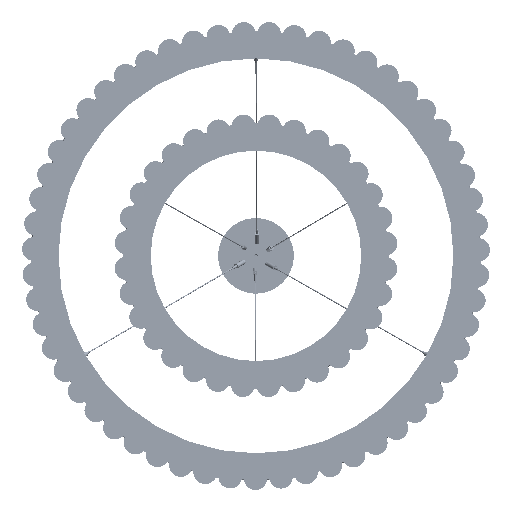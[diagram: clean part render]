
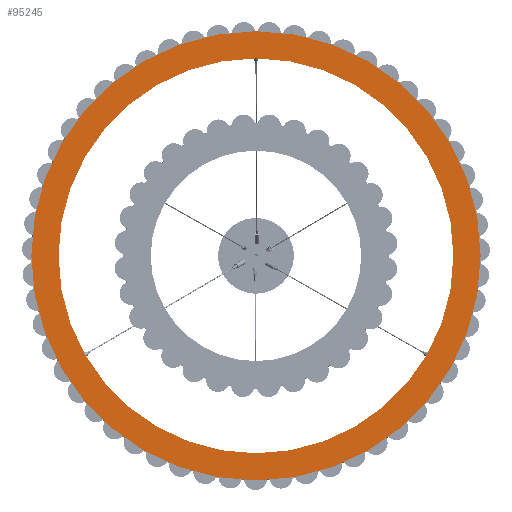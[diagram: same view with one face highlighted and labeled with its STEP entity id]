
A CAD part, front view. The second image highlights one B-rep face of the part: STEP entity #95245.
In plain terms, the highlighted planar face has unit normal (0, -1, 0).
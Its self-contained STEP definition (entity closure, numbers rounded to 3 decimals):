
#2103 = EDGE_LOOP ( 'NONE', ( #89075, #6935 ) ) ;
#6189 = DIRECTION ( 'NONE',  ( 0., 1., 0. ) ) ;
#6935 = ORIENTED_EDGE ( 'NONE', *, *, #30775, .F. ) ;
#8304 = DIRECTION ( 'NONE',  ( 0., 1., 0. ) ) ;
#9660 = EDGE_LOOP ( 'NONE', ( #27070, #81032 ) ) ;
#17504 = VERTEX_POINT ( 'NONE', #86953 ) ;
#19259 = AXIS2_PLACEMENT_3D ( 'NONE', #70881, #32173, #24553 ) ;
#20488 = CARTESIAN_POINT ( 'NONE',  ( 0., 0., -475. ) ) ;
#24089 = CARTESIAN_POINT ( 'NONE',  ( 0., 0., 0. ) ) ;
#24553 = DIRECTION ( 'NONE',  ( 0., 0., 1. ) ) ;
#25751 = VERTEX_POINT ( 'NONE', #76959 ) ;
#27070 = ORIENTED_EDGE ( 'NONE', *, *, #84040, .T. ) ;
#27551 = VERTEX_POINT ( 'NONE', #89168 ) ;
#30775 = EDGE_CURVE ( 'NONE', #27551, #93821, #99380, .T. ) ;
#30830 = AXIS2_PLACEMENT_3D ( 'NONE', #69986, #38404, #69492 ) ;
#32173 = DIRECTION ( 'NONE',  ( 0., 1., 0. ) ) ;
#32282 = FACE_OUTER_BOUND ( 'NONE', #2103, .T. ) ;
#34576 = DIRECTION ( 'NONE',  ( 0., 0., 1. ) ) ;
#34906 = CIRCLE ( 'NONE', #82139, 417.5 ) ;
#36592 = CIRCLE ( 'NONE', #38206, 417.5 ) ;
#38206 = AXIS2_PLACEMENT_3D ( 'NONE', #83128, #6189, #44878 ) ;
#38404 = DIRECTION ( 'NONE',  ( 0., 1., 0. ) ) ;
#38461 = EDGE_CURVE ( 'NONE', #93821, #27551, #48493, .T. ) ;
#39864 = DIRECTION ( 'NONE',  ( 0., 0., 1. ) ) ;
#42737 = CARTESIAN_POINT ( 'NONE',  ( 0., 0., 0. ) ) ;
#44878 = DIRECTION ( 'NONE',  ( 0., 0., 1. ) ) ;
#48493 = CIRCLE ( 'NONE', #19259, 475. ) ;
#69492 = DIRECTION ( 'NONE',  ( 0., 0., 1. ) ) ;
#69986 = CARTESIAN_POINT ( 'NONE',  ( 0., 0., 0. ) ) ;
#70881 = CARTESIAN_POINT ( 'NONE',  ( 0., 0., 0. ) ) ;
#76305 = EDGE_CURVE ( 'NONE', #17504, #25751, #34906, .T. ) ;
#76578 = AXIS2_PLACEMENT_3D ( 'NONE', #42737, #96773, #34576 ) ;
#76959 = CARTESIAN_POINT ( 'NONE',  ( 0., 0., -417.5 ) ) ;
#77141 = FACE_BOUND ( 'NONE', #9660, .T. ) ;
#78142 = PLANE ( 'NONE',  #30830 ) ;
#81032 = ORIENTED_EDGE ( 'NONE', *, *, #76305, .T. ) ;
#82139 = AXIS2_PLACEMENT_3D ( 'NONE', #24089, #8304, #39864 ) ;
#83128 = CARTESIAN_POINT ( 'NONE',  ( 0., 0., 0. ) ) ;
#84040 = EDGE_CURVE ( 'NONE', #25751, #17504, #36592, .T. ) ;
#86953 = CARTESIAN_POINT ( 'NONE',  ( 0., 0., 417.5 ) ) ;
#89075 = ORIENTED_EDGE ( 'NONE', *, *, #38461, .F. ) ;
#89168 = CARTESIAN_POINT ( 'NONE',  ( 0., 0., 475. ) ) ;
#93821 = VERTEX_POINT ( 'NONE', #20488 ) ;
#95245 = ADVANCED_FACE ( 'NONE', ( #32282, #77141 ), #78142, .F. ) ;
#96773 = DIRECTION ( 'NONE',  ( 0., 1., 0. ) ) ;
#99380 = CIRCLE ( 'NONE', #76578, 475. ) ;
